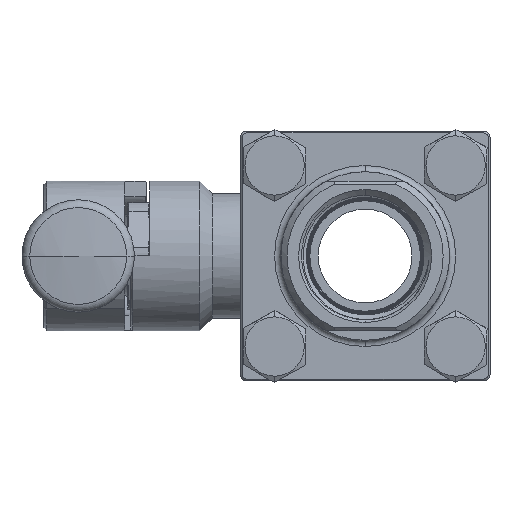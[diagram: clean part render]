
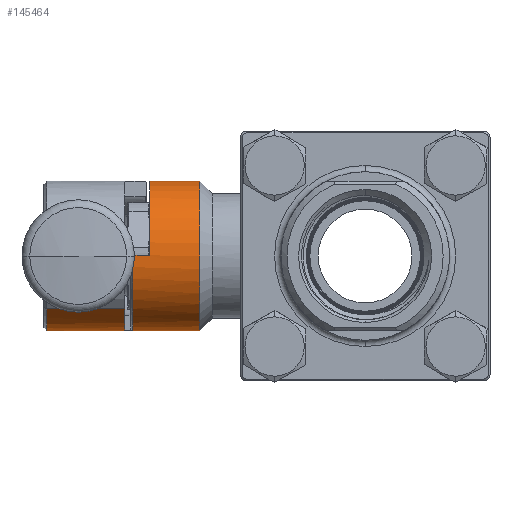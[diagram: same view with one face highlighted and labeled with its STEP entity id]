
A CAD part, left-side view. The second image highlights one B-rep face of the part: STEP entity #145464.
In plain terms, the highlighted cylindrical face has radius 12 mm (diameter 24 mm), a partial arc.
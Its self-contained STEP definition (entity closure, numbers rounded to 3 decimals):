
#77790=DIRECTION('',(0.,-1.,0.));
#77791=VECTOR('',#77790,1.3);
#77792=CARTESIAN_POINT('',(0.,38.5,-12.));
#77793=LINE('',#77792,#77791);
#77797=CARTESIAN_POINT('',(0.,37.2,0.));
#77798=DIRECTION('',(0.,1.,0.));
#77799=DIRECTION('',(0.,0.,-1.));
#77800=AXIS2_PLACEMENT_3D('',#77797,#77798,#77799);
#77805=CARTESIAN_POINT('',(0.,26.5,0.));
#77806=DIRECTION('',(0.,-1.,0.));
#77807=DIRECTION('',(0.,0.,1.));
#77808=AXIS2_PLACEMENT_3D('',#77805,#77806,#77807);
#77813=DIRECTION('',(0.,1.,0.));
#77814=VECTOR('',#77813,0.7);
#77815=CARTESIAN_POINT('',(0.1,34.5,-12.));
#77816=LINE('',#77815,#77814);
#77820=CARTESIAN_POINT('',(0.,35.2,0.));
#77821=DIRECTION('',(0.,1.,0.));
#77822=DIRECTION('',(0.707,0.,0.707));
#77823=AXIS2_PLACEMENT_3D('',#77820,#77821,#77822);
#77828=DIRECTION('',(0.,1.,0.));
#77829=VECTOR('',#77828,15.8);
#77830=CARTESIAN_POINT('',(8.485,35.2,8.485));
#77831=LINE('',#77830,#77829);
#77835=CARTESIAN_POINT('',(0.,51.,0.));
#77836=DIRECTION('',(0.,1.,0.));
#77837=DIRECTION('',(0.707,0.,0.707));
#77838=AXIS2_PLACEMENT_3D('',#77835,#77836,#77837);
#77843=DIRECTION('',(0.,1.,0.));
#77844=VECTOR('',#77843,12.5);
#77845=CARTESIAN_POINT('',(-8.485,38.5,-8.485));
#77846=LINE('',#77845,#77844);
#77850=CARTESIAN_POINT('',(0.,38.5,0.));
#77851=DIRECTION('',(0.,-1.,0.));
#77852=DIRECTION('',(-0.707,0.,-0.707));
#77853=AXIS2_PLACEMENT_3D('',#77850,#77851,#77852);
#77960=CARTESIAN_POINT('',(0.1,35.2,-12.));
#82851=CARTESIAN_POINT('',(0.,34.5,0.));
#82852=DIRECTION('',(0.,-1.,0.));
#82853=DIRECTION('',(0.,0.,1.));
#82854=AXIS2_PLACEMENT_3D('',#82851,#82852,#82853);
#82914=CARTESIAN_POINT('',(0.,34.5,0.));
#82915=DIRECTION('',(0.,1.,0.));
#82916=DIRECTION('',(0.008,0.,-1.));
#82917=AXIS2_PLACEMENT_3D('',#82914,#82915,#82916);
#82922=DIRECTION('',(0.,1.,0.));
#82923=VECTOR('',#82922,8.);
#82924=CARTESIAN_POINT('',(0.,26.5,-12.));
#82925=LINE('',#82924,#82923);
#82937=DIRECTION('',(0.,1.,0.));
#82938=VECTOR('',#82937,8.);
#82939=CARTESIAN_POINT('',(0.,26.5,12.));
#82940=LINE('',#82939,#82938);
#82954=DIRECTION('',(0.,1.,0.));
#82955=VECTOR('',#82954,2.7);
#82956=CARTESIAN_POINT('',(-12.,34.5,0.1));
#82957=LINE('',#82956,#82955);
#82966=CARTESIAN_POINT('',(-12.,37.2,
0.1));
#91910=CARTESIAN_POINT('',(-12.,34.5,0.1));
#91911=VERTEX_POINT('',#91910);
#91912=CARTESIAN_POINT('',(0.1,34.5,-12.));
#91913=VERTEX_POINT('',#91912);
#91915=CARTESIAN_POINT('',(0.,26.5,12.));
#91917=VERTEX_POINT('',#91915);
#91918=CARTESIAN_POINT('',(0.,34.5,12.));
#91919=VERTEX_POINT('',#91918);
#91921=CARTESIAN_POINT('',(0.,26.5,-12.));
#91923=VERTEX_POINT('',#91921);
#91924=CARTESIAN_POINT('',(0.,34.5,-12.));
#91925=VERTEX_POINT('',#91924);
#91927=VERTEX_POINT('',#82966);
#92511=CARTESIAN_POINT('',(0.,38.5,-12.));
#92512=VERTEX_POINT('',#92511);
#92515=CARTESIAN_POINT('',(-8.485,38.5,-8.485));
#92516=VERTEX_POINT('',#92515);
#92997=CARTESIAN_POINT('',(-8.485,51.,-8.485));
#92998=CARTESIAN_POINT('',(8.485,51.,8.485));
#92999=VERTEX_POINT('',#92997);
#93000=VERTEX_POINT('',#92998);
#93009=CARTESIAN_POINT('',(8.485,35.2,8.485));
#93010=VERTEX_POINT('',#93009);
#93159=VERTEX_POINT('',#77960);
#93161=CARTESIAN_POINT('',(0.,37.2,-12.));
#93162=VERTEX_POINT('',#93161);
#145430=CARTESIAN_POINT('',(0.,52.325,0.));
#145431=DIRECTION('',(0.,-1.,0.));
#145432=DIRECTION('',(-0.707,0.,-0.707));
#145433=AXIS2_PLACEMENT_3D('',#145430,#145431,#145432);
#145434=CYLINDRICAL_SURFACE('',#145433,12.);
#145436=ORIENTED_EDGE('',*,*,#145435,.T.);
#145438=ORIENTED_EDGE('',*,*,#145437,.T.);
#145440=ORIENTED_EDGE('',*,*,#145439,.F.);
#145442=ORIENTED_EDGE('',*,*,#145441,.F.);
#145444=ORIENTED_EDGE('',*,*,#145443,.F.);
#145445=ORIENTED_EDGE('',*,*,#145425,.T.);
#145447=ORIENTED_EDGE('',*,*,#145446,.T.);
#145449=ORIENTED_EDGE('',*,*,#145448,.F.);
#145451=ORIENTED_EDGE('',*,*,#145450,.T.);
#145453=ORIENTED_EDGE('',*,*,#145452,.F.);
#145455=ORIENTED_EDGE('',*,*,#145454,.T.);
#145457=ORIENTED_EDGE('',*,*,#145456,.T.);
#145459=ORIENTED_EDGE('',*,*,#145458,.F.);
#145461=ORIENTED_EDGE('',*,*,#145460,.T.);
#145462=EDGE_LOOP('',(#145436,#145438,#145440,#145442,#145444,#145445,#145447,
#145449,#145451,#145453,#145455,#145457,#145459,#145461));
#145463=FACE_OUTER_BOUND('',#145462,.F.);
#145464=ADVANCED_FACE('',(#145463),#145434,.T.);
#77801=CIRCLE('',#77800,12.);
#77809=CIRCLE('',#77808,12.);
#77824=CIRCLE('',#77823,12.);
#77839=CIRCLE('',#77838,12.);
#77854=CIRCLE('',#77853,12.);
#82855=CIRCLE('',#82854,12.);
#82918=CIRCLE('',#82917,12.);
#145425=EDGE_CURVE('',#91917,#91923,#77809,.T.);
#145435=EDGE_CURVE('',#92512,#93162,#77793,.T.);
#145437=EDGE_CURVE('',#93162,#91927,#77801,.T.);
#145439=EDGE_CURVE('',#91911,#91927,#82957,.T.);
#145441=EDGE_CURVE('',#91919,#91911,#82855,.T.);
#145443=EDGE_CURVE('',#91917,#91919,#82940,.T.);
#145446=EDGE_CURVE('',#91923,#91925,#82925,.T.);
#145448=EDGE_CURVE('',#91913,#91925,#82918,.T.);
#145450=EDGE_CURVE('',#91913,#93159,#77816,.T.);
#145452=EDGE_CURVE('',#93010,#93159,#77824,.T.);
#145454=EDGE_CURVE('',#93010,#93000,#77831,.T.);
#145456=EDGE_CURVE('',#93000,#92999,#77839,.T.);
#145458=EDGE_CURVE('',#92516,#92999,#77846,.T.);
#145460=EDGE_CURVE('',#92516,#92512,#77854,.T.);
